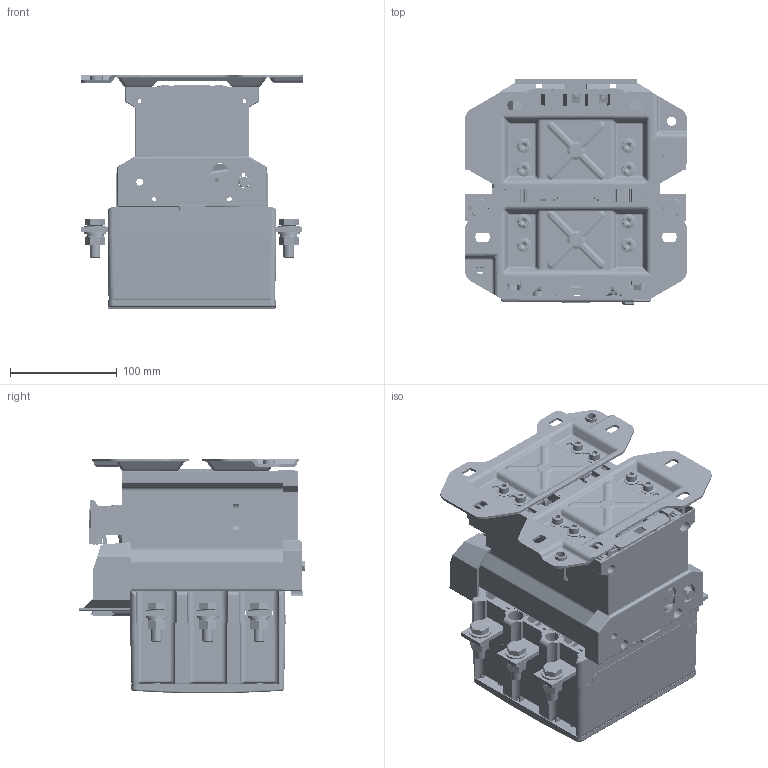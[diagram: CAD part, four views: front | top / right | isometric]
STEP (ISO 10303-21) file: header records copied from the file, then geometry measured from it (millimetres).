
FILE_DESCRIPTION((''),'2;1');
FILE_NAME('ASM0001_ASM','2018-12-19T',('KYCAD026'),(''),'CREO PARAMETRIC BY PTC INC, 2015480','CREO PARAMETRIC BY PTC INC, 2015480','');
FILE_SCHEMA(('CONFIG_CONTROL_DESIGN'));
Products named in the file (64): 8022022_1_1; 8022023_1_1; 8024052A_3_1; 8271022_7_1; 89500236_1_1; M6X12_GB70_2_1; 5022013_ASM_2_1_ASM; 8024049_32_1; 8574046_6_1; 8557084_4_1; 8550107_2_1; 5550123_ASM_1_1_ASM; 8596014_3_1; CHUTOU_ASM_1_1_ASM; 5558022_ASM_2_1_ASM; 8315110_41_1; 8315109_59_1; XIANTIE_1_1; 8600042_1_1; 8206107_10_1; 8ZTJ9640020_1_1; 5612040_ASM_1_1_ASM; 8211019_6_1; 8040007_4_1; 8128034_36_1; 8282142_2_1; 8271020_35_1; 5612044_ASM_3_1_ASM; 8732034_41_1; QIBAOXIAN_5_1; 5520056_ASM_1_1_ASM; 8599007_11_1; 8574006_1_1; 5599007_ASM_1_1_ASM; 8315098_6_1; 8104049_23_1; 8553017_1_1; FUZHUTONGJI_1_1; FUZHUYINDIAN_1_1; 8553089_ASM_1_1_ASM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
Assembly tree (136 placements, depth 8):
  ASM0001_ASM
    2400032_ASM_12_1_ASM
      5022013_ASM_2_1_ASM
        8022022_1_1
        8022023_1_1
        8024052A_3_1  x2
        8271022_7_1  x4
        89500236_1_1  x8
        M6X12_GB70_2_1  x8
      5558022_ASM_2_1_ASM
        8024049_32_1
        8574046_6_1  x6
        CHUTOU_ASM_1_1_ASM  x6
          5550123_ASM_1_1_ASM
            8557084_4_1
            8550107_2_1
          8596014_3_1
      8315110_41_1
      8315109_59_1
      5612044_ASM_3_1_ASM
        5612040_ASM_1_1_ASM
          XIANTIE_1_1
          8600042_1_1  x2
          8206107_10_1  x2
          8ZTJ9640020_1_1  x6
        8211019_6_1  x4
        8040007_4_1  x2
        8128034_36_1  x4
        8282142_2_1
        8271020_35_1
      5520054_ASM_2_1_ASM
        5520055_ASM_4_1_ASM
          5520056_ASM_1_1_ASM
            8732034_41_1
            QIBAOXIAN_5_1
          5599007_ASM_1_1_ASM
            8599007_11_1
            8574006_1_1  x2
          8315098_6_1
          5104079_ASM_4_1_ASM
            8104049_23_1
            5553018_ASM_1_1_ASM  x2
              8553017_1_1
              8553089_ASM_1_1_ASM
                FUZHUTONGJI_1_1
                FUZHUYINDIAN_1_1
            8282044_4_1  x2
          8315097_3_1
        XIANQUANGUJIA_35_1_2_ASM
          XIANQUANGUJIA_35_1_2_1
          XIANQUANGUJIA_35_1_2_2
      ZHLD35_ASM_2_1_ASM  x2
        NC1-35-1_2_1
        NC1-35-2_2_1
      8315099_22_1
      PINGDIAN10_3_1  x12
      TANDIAN10_2_1  x6
      M10X30_GB5783_13_1  x6
      M10_GB6170_8_1  x6
      5744007_ASM_2_1_ASM
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Bounding box: 208 x 211.5 x 219.63 mm (x, y, z)
Volume: 1930344.5 mm3; surface area: 1108297.7 mm2
Topology: 135 solids, 180 shells, 9730 faces, 26870 edges, 17522 vertices
Faces by surface type: plane 6153, cylinder 2757, cone 448, bspline 195, torus 115, sphere 62
Entity records: 262140 total; most frequent: CARTESIAN_POINT 53658, ORIENTED_EDGE 38032, DIRECTION 35646, EDGE_CURVE 19036, VECTOR 13740, LINE 13740, VERTEX_POINT 12578, AXIS2_PLACEMENT_3D 10953
